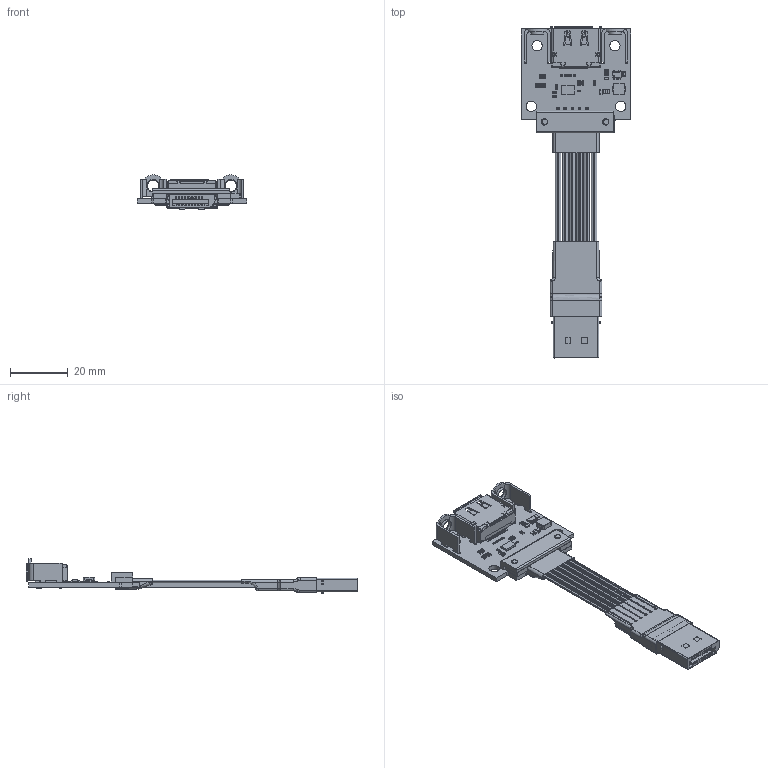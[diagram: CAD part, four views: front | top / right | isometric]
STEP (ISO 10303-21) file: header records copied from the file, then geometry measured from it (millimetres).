
FILE_DESCRIPTION(('Open CASCADE Model'),'2;1');
FILE_NAME('Open CASCADE Shape Model','2025-11-04T14:26:51',('Author'),( 'Open CASCADE'),'Open CASCADE STEP processor 7.5','Open CASCADE 7.5' ,'Unknown');
FILE_SCHEMA(('AUTOMOTIVE_DESIGN { 1 0 10303 214 1 1 1 1 }'));
Length unit declared in the file: millimetre
Products named in the file (130): PCB; Board; Open CASCADE STEP translator 7.5 5.1.1; CN1_1; DP-male 20220804; R1_1; 0603_RES; Capsule; Encapsulation; TopCover; Designator8; PCB-M4; Designator7; U2; SOT23_5; U1; PI2DPX2023AFLAEX; Body; Pins; R12; R11; R10; R9; R8; R7; R6; R5; R4; R3; R2; R1; L1; WE_Inductor_4020; CN1; DP DisplayPort2; C28; C0201_020; C27; C26; C25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
Assembly tree (224 placements, depth 4):
  PCB
    Board
      Open CASCADE STEP translator 7.5 5.1.1
    CN1_1
      DP-male 20220804  x2
      DP-male 20220804
    R1_1
      0603_RES
        Capsule
        Encapsulation  x2
        TopCover
    Designator8
      PCB-M4
    Designator7
      PCB-M4
    U2
      SOT23_5
    U1
      PI2DPX2023AFLAEX
        Body
        Pins
    R12
      0603_RES
        Capsule
        Encapsulation  x2
        TopCover
    R11
      0603_RES
        Capsule
        Encapsulation  x2
        TopCover
    R10
      0603_RES
        Capsule
        Encapsulation  x2
        TopCover
    R9
      0603_RES
        Capsule
        Encapsulation  x2
        TopCover
    R8
      0603_RES
        Capsule
        Encapsulation  x2
        TopCover
    R7
      0603_RES
        Capsule
        Encapsulation  x2
        TopCover
    R6
      0603_RES
        Capsule
        Encapsulation  x2
        TopCover
    R5
      0603_RES
        Capsule
        Encapsulation  x2
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Bounding box: 38 x 115.26 x 11.88 mm (x, y, z)
Volume: 6409.4 mm3; surface area: 31483.8 mm2
Topology: 238 solids, 240 shells, 6553 faces, 16848 edges, 10777 vertices
Faces by surface type: plane 3133, bspline 1580, cylinder 1572, sphere 224, torus 28, cone 6, offset 6, revolution 4
Full cylindrical faces by diameter (mm): 0.254 x84, 0.392 x1, 0.8 x2, 1.4 x1, 2.2 x4, 3.6 x4, 4 x2, 4.4 x2
Entity records: 155676 total; most frequent: CARTESIAN_POINT 54907, ORIENTED_EDGE 17438, DIRECTION 13375, EDGE_CURVE 8723, VERTEX_POINT 5740, AXIS2_PLACEMENT_3D 4487, LINE 4397, VECTOR 4397
